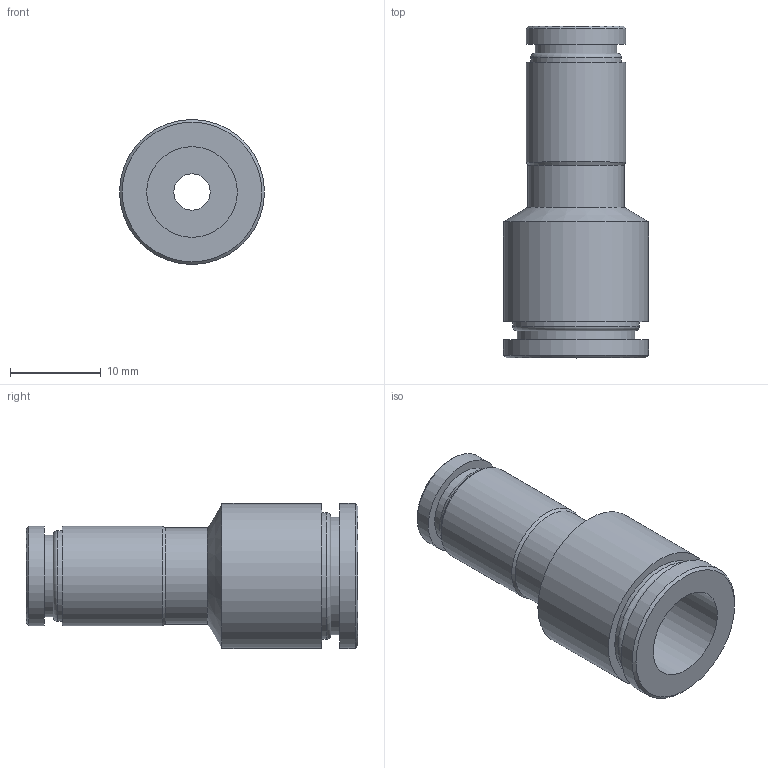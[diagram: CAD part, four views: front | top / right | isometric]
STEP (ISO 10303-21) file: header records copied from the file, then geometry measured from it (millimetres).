
FILE_DESCRIPTION(/* description */ (''),/* implementation_level */ '2;1');
FILE_NAME(/* name */ 'LXH10 1006 00.stp',/* time_stamp */ '2026-04-29T14:20:18+02:00',/* author */ ('freju'),/* organization */ (''),/* preprocessor_version */ 'ST-DEVELOPER v20.1',/* originating_system */ 'Autodesk Inventor 2026',/* authorisation */ '');
FILE_SCHEMA (('AUTOMOTIVE_DESIGN { 1 0 10303 214 3 1 1 }'));
Length unit declared in the file: millimetre
Products named in the file (1): LXH10 1006 00
Bounding box: 16 x 36.6 x 16 mm (x, y, z)
Volume: 3006.6 mm3; surface area: 2895.6 mm2
Topology: 1 solids, 1 shells, 26 faces, 51 edges, 33 vertices
Faces by surface type: cylinder 12, plane 8, cone 4, torus 2
Full cylindrical faces by diameter (mm): 4 x1, 6 x1, 9 x1, 10 x2, 10.6 x1, 11 x2, 13 x1, 14 x1, 16 x2
Entity records: 733 total; most frequent: DIRECTION 140, CARTESIAN_POINT 111, ORIENTED_EDGE 102, AXIS2_PLACEMENT_3D 62, EDGE_CURVE 51, CIRCLE 35, EDGE_LOOP 34, VERTEX_POINT 33
